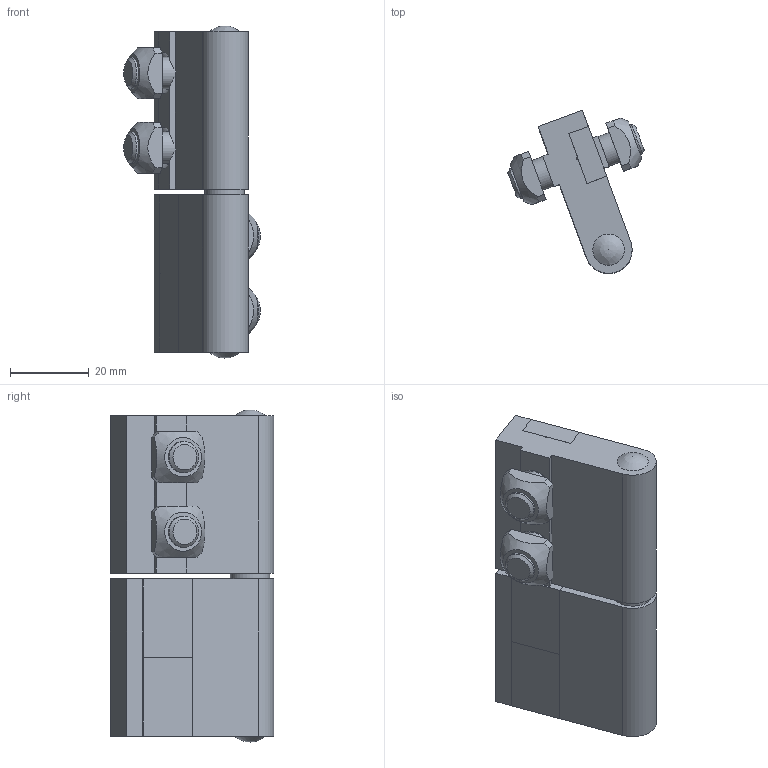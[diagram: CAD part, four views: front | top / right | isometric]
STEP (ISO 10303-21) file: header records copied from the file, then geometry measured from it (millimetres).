
FILE_DESCRIPTION((''),'2;1');
FILE_NAME('C:\Documents and Settings\Administrator\My Documents\Andys Backup Data\ANDY''S INVENTOR\INVENTOR LIBRARIES\MINITEC INVENTOR LIBRARIES\LINKS AND HINGES\A PACKED FILES\STEP FILES\21.1096 HINGE 45.stp','2010-06-24T14:39:51',('Administrator'),(''),'Autodesk Inventor 2009','Autodesk Inventor 2009','');
FILE_SCHEMA(('AUTOMOTIVE_DESIGN { 1 0 10303 214 1 1 1 1 }'));
Length unit declared in the file: millimetre
Products named in the file (8): 21.1096 HINGE 45 LEFT HAND; 21.1096 HINGE PIN; 21.1096 HINGE 45 AL BLOCK; 21.1096 HINGE WASHER; 21.1096 HINGE PIN END CAP; 22.1050 HINGE SCREW CAP; 21.1268 M8X18; 21.1351 M8 SQUARE NUT
Assembly tree (18 placements, depth 2):
  21.1096 HINGE 45 LEFT HAND
    21.1096 HINGE PIN
    21.1096 HINGE 45 AL BLOCK  x2
    21.1096 HINGE WASHER
    21.1096 HINGE PIN END CAP  x2
    22.1050 HINGE SCREW CAP  x4
    21.1268 M8X18  x4
    21.1351 M8 SQUARE NUT  x4
Bounding box: 34.71 x 41.53 x 84.5 mm (x, y, z)
Volume: 41955.6 mm3; surface area: 24116.4 mm2
Topology: 18 solids, 18 shells, 417 faces, 1133 edges, 750 vertices
Faces by surface type: plane 358, cylinder 23, bspline 18, cone 14, torus 4
Full cylindrical faces by diameter (mm): 5.5 x2, 6 x4, 6.2 x2, 8 x8, 10 x1, 13 x4
Entity records: 9004 total; most frequent: CARTESIAN_POINT 1744, ORIENTED_EDGE 1472, DIRECTION 1455, EDGE_CURVE 736, VECTOR 537, LINE 537, VERTEX_POINT 499, AXIS2_PLACEMENT_3D 459
